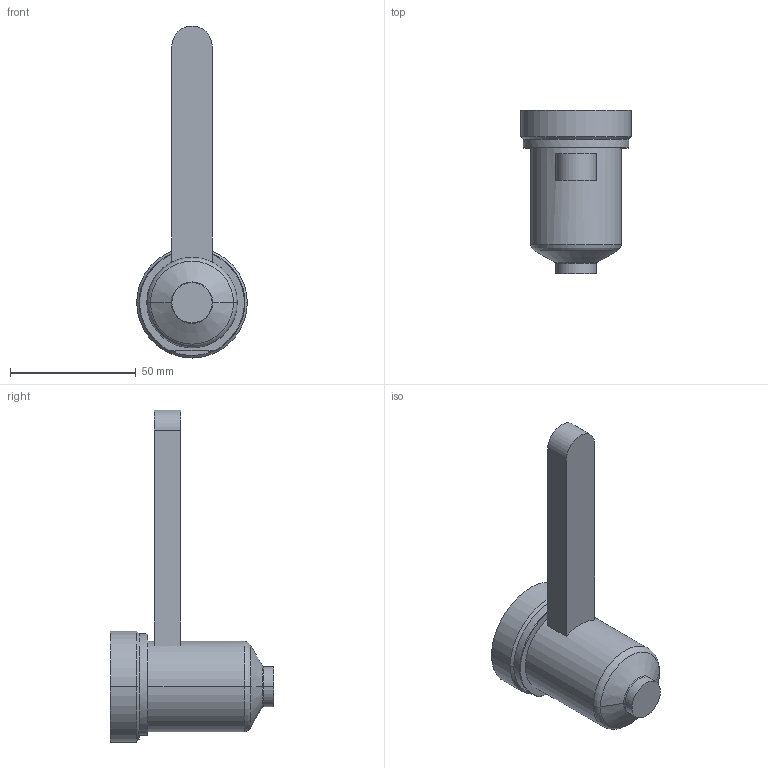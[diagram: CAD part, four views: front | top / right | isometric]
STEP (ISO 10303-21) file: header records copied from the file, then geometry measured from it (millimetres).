
FILE_DESCRIPTION((''),'2;1');
FILE_NAME('EO12_VG-FB_WR_050_COT','2024-02-19T13:39:31',('sundharh'),(''),'CREO PARAMETRIC BY PTC INC, 2023154','CREO PARAMETRIC BY PTC INC, 2023154','');
FILE_SCHEMA(('CONFIG_CONTROL_DESIGN'));
Length unit declared in the file: millimetre
Products named in the file (1): EO12_VG-FB_WR_050_COT
Bounding box: 44 x 65 x 132 mm (x, y, z)
Volume: 82140.5 mm3; surface area: 14618.3 mm2
Topology: 1 solids, 1 shells, 31 faces, 67 edges, 40 vertices
Faces by surface type: cylinder 11, plane 9, torus 7, cone 4
Entity records: 951 total; most frequent: CARTESIAN_POINT 218, DIRECTION 159, ORIENTED_EDGE 134, AXIS2_PLACEMENT_3D 67, EDGE_CURVE 67, VERTEX_POINT 40, CIRCLE 36, EDGE_LOOP 33
